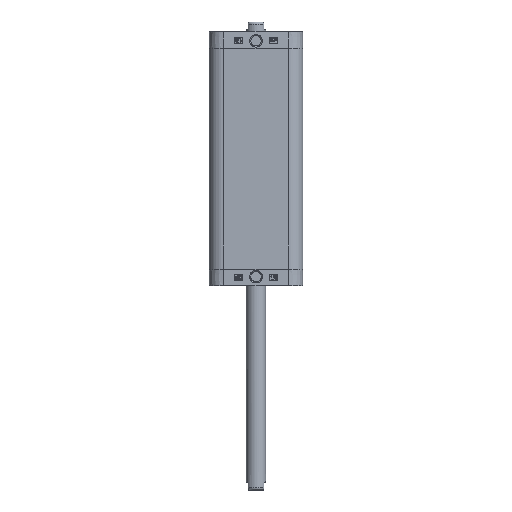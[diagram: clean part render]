
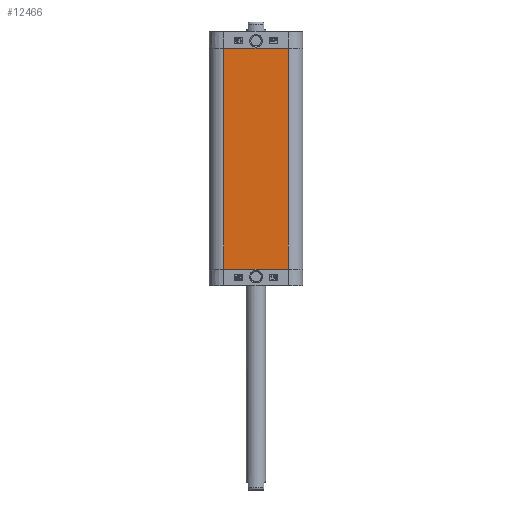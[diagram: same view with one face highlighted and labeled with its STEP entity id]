
A CAD part, left-side view. The second image highlights one B-rep face of the part: STEP entity #12466.
In plain terms, the highlighted planar face has unit normal (-1, 0, 0).
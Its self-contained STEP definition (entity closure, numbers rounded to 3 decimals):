
#781=LINE('',#22117,#1869);
#835=LINE('',#22341,#1923);
#889=LINE('',#22566,#1977);
#890=LINE('',#22567,#1978);
#1869=VECTOR('',#18780,1000.);
#1923=VECTOR('',#18952,1000.);
#1977=VECTOR('',#19124,1000.);
#1978=VECTOR('',#19125,1000.);
#3183=ORIENTED_EDGE('',*,*,#6675,.T.);
#3184=ORIENTED_EDGE('',*,*,#6899,.F.);
#3185=ORIENTED_EDGE('',*,*,#6787,.T.);
#3186=ORIENTED_EDGE('',*,*,#6900,.T.);
#6675=EDGE_CURVE('',#8534,#8532,#781,.T.);
#6787=EDGE_CURVE('',#8645,#8646,#835,.T.);
#6899=EDGE_CURVE('',#8645,#8532,#889,.T.);
#6900=EDGE_CURVE('',#8646,#8534,#890,.T.);
#8532=VERTEX_POINT('',#22115);
#8534=VERTEX_POINT('',#22118);
#8645=VERTEX_POINT('',#22342);
#8646=VERTEX_POINT('',#22343);
#10258=EDGE_LOOP('',(#3183,#3184,#3185,#3186));
#11190=FACE_BOUND('',#10258,.T.);
#12121=PLANE('',#17768);
#12466=ADVANCED_FACE('',(#11190),#12121,.T.);
#17768=AXIS2_PLACEMENT_3D('',#22565,#19122,#19123);
#18780=DIRECTION('',(0.,1.,0.));
#18952=DIRECTION('',(0.,-1.,0.));
#19122=DIRECTION('',(-1.,0.,0.));
#19123=DIRECTION('',(0.,0.,1.));
#19124=DIRECTION('',(0.,0.,1.));
#19125=DIRECTION('',(0.,0.,1.));
#22115=CARTESIAN_POINT('',(-38.5,26.5,176.5));
#22117=CARTESIAN_POINT('',(-38.5,-26.5,176.5));
#22118=CARTESIAN_POINT('',(-38.5,-26.5,176.5));
#22341=CARTESIAN_POINT('',(-38.5,26.5,-5.));
#22342=CARTESIAN_POINT('',(-38.5,26.5,-5.));
#22343=CARTESIAN_POINT('',(-38.5,-26.5,-5.));
#22565=CARTESIAN_POINT('',(-38.5,-26.5,0.));
#22566=CARTESIAN_POINT('',(-38.5,26.5,0.));
#22567=CARTESIAN_POINT('',(-38.5,-26.5,0.));
